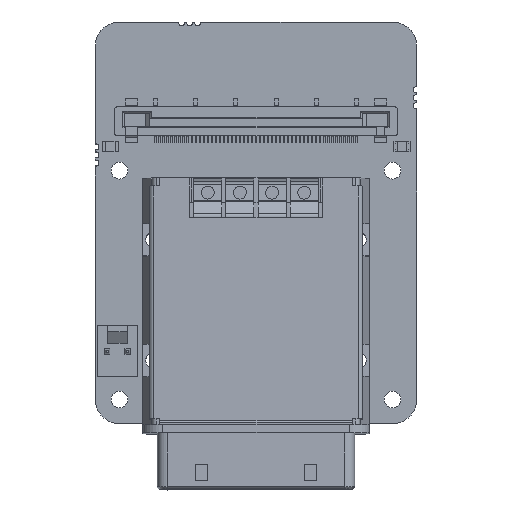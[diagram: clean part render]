
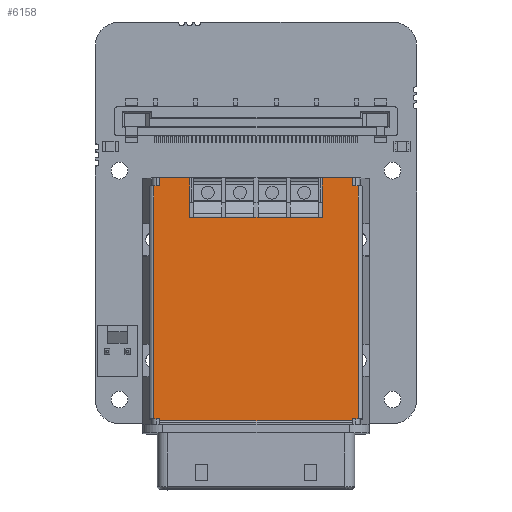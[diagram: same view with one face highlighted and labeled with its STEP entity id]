
A CAD part, top view. The second image highlights one B-rep face of the part: STEP entity #6158.
In plain terms, the highlighted planar face has unit normal (0, 0.018, 1).
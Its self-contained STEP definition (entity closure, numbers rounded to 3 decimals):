
#6158=ADVANCED_FACE('',(#10761),#8237,.T.);
#8237=PLANE('',#55753);
#10761=FACE_OUTER_BOUND('',#13601,.T.);
#13601=EDGE_LOOP('',(#25966,#25967,#25968,#25969,#25970,#25971,#25972,#25973,
#25974,#25975,#25976,#25977,#25978,#25979,#25980,#25981,#25982,#25983,#25984,
#25985,#25986,#25987,#25988,#25989));
#25966=ORIENTED_EDGE('',*,*,#39552,.F.);
#25967=ORIENTED_EDGE('',*,*,#39553,.F.);
#25968=ORIENTED_EDGE('',*,*,#39554,.F.);
#25969=ORIENTED_EDGE('',*,*,#39555,.F.);
#25970=ORIENTED_EDGE('',*,*,#39556,.F.);
#25971=ORIENTED_EDGE('',*,*,#39557,.F.);
#25972=ORIENTED_EDGE('',*,*,#39558,.T.);
#25973=ORIENTED_EDGE('',*,*,#39559,.T.);
#25974=ORIENTED_EDGE('',*,*,#39560,.T.);
#25975=ORIENTED_EDGE('',*,*,#39548,.F.);
#25976=ORIENTED_EDGE('',*,*,#39561,.F.);
#25977=ORIENTED_EDGE('',*,*,#39463,.T.);
#25978=ORIENTED_EDGE('',*,*,#39461,.T.);
#25979=ORIENTED_EDGE('',*,*,#39562,.T.);
#25980=ORIENTED_EDGE('',*,*,#39563,.F.);
#25981=ORIENTED_EDGE('',*,*,#39485,.T.);
#25982=ORIENTED_EDGE('',*,*,#39564,.T.);
#25983=ORIENTED_EDGE('',*,*,#39528,.F.);
#25984=ORIENTED_EDGE('',*,*,#39551,.T.);
#25985=ORIENTED_EDGE('',*,*,#39565,.T.);
#25986=ORIENTED_EDGE('',*,*,#39566,.T.);
#25987=ORIENTED_EDGE('',*,*,#39567,.F.);
#25988=ORIENTED_EDGE('',*,*,#39568,.F.);
#25989=ORIENTED_EDGE('',*,*,#39569,.F.);
#32702=VERTEX_POINT('',#82730);
#32703=VERTEX_POINT('',#82732);
#32704=VERTEX_POINT('',#82736);
#32725=VERTEX_POINT('',#82779);
#32726=VERTEX_POINT('',#82781);
#32756=VERTEX_POINT('',#82863);
#32757=VERTEX_POINT('',#82864);
#32774=VERTEX_POINT('',#82901);
#32775=VERTEX_POINT('',#82903);
#32776=VERTEX_POINT('',#82907);
#32777=VERTEX_POINT('',#82911);
#32778=VERTEX_POINT('',#82912);
#32779=VERTEX_POINT('',#82914);
#32780=VERTEX_POINT('',#82916);
#32781=VERTEX_POINT('',#82918);
#32782=VERTEX_POINT('',#82920);
#32783=VERTEX_POINT('',#82922);
#32784=VERTEX_POINT('',#82924);
#32785=VERTEX_POINT('',#82926);
#32786=VERTEX_POINT('',#82930);
#32787=VERTEX_POINT('',#82934);
#32788=VERTEX_POINT('',#82936);
#32789=VERTEX_POINT('',#82938);
#32790=VERTEX_POINT('',#82940);
#39461=EDGE_CURVE('',#32703,#32702,#45447,.T.);
#39463=EDGE_CURVE('',#32704,#32703,#45449,.T.);
#39485=EDGE_CURVE('',#32726,#32725,#45463,.T.);
#39528=EDGE_CURVE('',#32756,#32757,#45506,.T.);
#39548=EDGE_CURVE('',#32774,#32775,#45518,.T.);
#39551=EDGE_CURVE('',#32756,#32776,#45521,.T.);
#39552=EDGE_CURVE('',#32777,#32778,#45522,.T.);
#39553=EDGE_CURVE('',#32779,#32777,#45523,.T.);
#39554=EDGE_CURVE('',#32780,#32779,#45524,.T.);
#39555=EDGE_CURVE('',#32781,#32780,#45525,.T.);
#39556=EDGE_CURVE('',#32782,#32781,#45526,.T.);
#39557=EDGE_CURVE('',#32783,#32782,#45527,.T.);
#39558=EDGE_CURVE('',#32783,#32784,#45528,.T.);
#39559=EDGE_CURVE('',#32784,#32785,#45529,.T.);
#39560=EDGE_CURVE('',#32785,#32775,#45530,.T.);
#39561=EDGE_CURVE('',#32704,#32774,#45531,.T.);
#39562=EDGE_CURVE('',#32702,#32786,#45532,.T.);
#39563=EDGE_CURVE('',#32726,#32786,#45533,.T.);
#39564=EDGE_CURVE('',#32725,#32757,#45534,.T.);
#39565=EDGE_CURVE('',#32776,#32787,#45535,.T.);
#39566=EDGE_CURVE('',#32787,#32788,#45536,.T.);
#39567=EDGE_CURVE('',#32789,#32788,#45537,.T.);
#39568=EDGE_CURVE('',#32790,#32789,#45538,.T.);
#39569=EDGE_CURVE('',#32778,#32790,#45539,.T.);
#45447=LINE('',#82731,#51195);
#45449=LINE('',#82735,#51197);
#45463=LINE('',#82780,#51211);
#45506=LINE('',#82862,#51254);
#45518=LINE('',#82902,#51266);
#45521=LINE('',#82908,#51269);
#45522=LINE('',#82910,#51270);
#45523=LINE('',#82913,#51271);
#45524=LINE('',#82915,#51272);
#45525=LINE('',#82917,#51273);
#45526=LINE('',#82919,#51274);
#45527=LINE('',#82921,#51275);
#45528=LINE('',#82923,#51276);
#45529=LINE('',#82925,#51277);
#45530=LINE('',#82927,#51278);
#45531=LINE('',#82928,#51279);
#45532=LINE('',#82929,#51280);
#45533=LINE('',#82931,#51281);
#45534=LINE('',#82932,#51282);
#45535=LINE('',#82933,#51283);
#45536=LINE('',#82935,#51284);
#45537=LINE('',#82937,#51285);
#45538=LINE('',#82939,#51286);
#45539=LINE('',#82941,#51287);
#51195=VECTOR('',#67779,1.);
#51197=VECTOR('',#67783,1.);
#51211=VECTOR('',#67815,1.);
#51254=VECTOR('',#67876,1.);
#51266=VECTOR('',#67906,1.);
#51269=VECTOR('',#67911,1.);
#51270=VECTOR('',#67914,1.);
#51271=VECTOR('',#67915,1.);
#51272=VECTOR('',#67916,1.);
#51273=VECTOR('',#67917,1.);
#51274=VECTOR('',#67918,1.);
#51275=VECTOR('',#67919,1.);
#51276=VECTOR('',#67920,1.);
#51277=VECTOR('',#67921,1.);
#51278=VECTOR('',#67922,1.);
#51279=VECTOR('',#67923,1.);
#51280=VECTOR('',#67924,1.);
#51281=VECTOR('',#67925,1.);
#51282=VECTOR('',#67926,1.);
#51283=VECTOR('',#67927,1.);
#51284=VECTOR('',#67928,1.);
#51285=VECTOR('',#67929,1.);
#51286=VECTOR('',#67930,1.);
#51287=VECTOR('',#67931,1.);
#55753=AXIS2_PLACEMENT_3D('',#82942,#67932,#67933);
#67779=DIRECTION('',(0.,-1.,0.017));
#67783=DIRECTION('',(1.,0.,0.));
#67815=DIRECTION('',(1.,0.,0.));
#67876=DIRECTION('',(1.,0.,0.));
#67906=DIRECTION('',(1.,0.,0.));
#67911=DIRECTION('',(0.,1.,-0.017));
#67914=DIRECTION('',(1.,0.,0.));
#67915=DIRECTION('',(1.,0.,0.));
#67916=DIRECTION('',(1.,0.,0.));
#67917=DIRECTION('',(1.,0.,0.));
#67918=DIRECTION('',(1.,0.,0.));
#67919=DIRECTION('',(1.,0.,0.));
#67920=DIRECTION('',(0.,1.,-0.017));
#67921=DIRECTION('',(-1.,0.,0.));
#67922=DIRECTION('',(0.,-1.,0.017));
#67923=DIRECTION('',(0.,1.,-0.017));
#67924=DIRECTION('',(1.,0.,0.));
#67925=DIRECTION('',(0.,-1.,0.017));
#67926=DIRECTION('',(0.,1.,-0.017));
#67927=DIRECTION('',(-1.,0.,0.));
#67928=DIRECTION('',(0.,-1.,0.017));
#67929=DIRECTION('',(1.,0.,0.));
#67930=DIRECTION('',(1.,0.,0.));
#67931=DIRECTION('',(1.,0.,0.));
#67932=DIRECTION('',(0.,0.017,1.));
#67933=DIRECTION('',(0.,1.,-0.017));
#82730=CARTESIAN_POINT('',(8.,0.361,7.651));
#82731=CARTESIAN_POINT('',(8.,0.601,7.647));
#82732=CARTESIAN_POINT('',(8.,0.601,7.647));
#82735=CARTESIAN_POINT('',(7.255,0.601,7.647));
#82736=CARTESIAN_POINT('',(7.255,0.601,7.647));
#82779=CARTESIAN_POINT('',(32.745,0.601,7.647));
#82780=CARTESIAN_POINT('',(32.,0.601,7.647));
#82781=CARTESIAN_POINT('',(32.,0.601,7.647));
#82862=CARTESIAN_POINT('',(32.,29.576,7.141));
#82863=CARTESIAN_POINT('',(32.,29.576,7.141));
#82864=CARTESIAN_POINT('',(32.745,29.576,7.141));
#82901=CARTESIAN_POINT('',(7.255,29.576,7.141));
#82902=CARTESIAN_POINT('',(7.255,29.576,7.141));
#82903=CARTESIAN_POINT('',(8.,29.576,7.141));
#82907=CARTESIAN_POINT('',(32.,30.576,7.124));
#82908=CARTESIAN_POINT('',(32.,29.576,7.141));
#82910=CARTESIAN_POINT('',(20.255,25.677,7.209));
#82911=CARTESIAN_POINT('',(20.255,25.677,7.209));
#82912=CARTESIAN_POINT('',(23.745,25.677,7.209));
#82913=CARTESIAN_POINT('',(19.745,25.677,7.209));
#82914=CARTESIAN_POINT('',(19.745,25.677,7.209));
#82915=CARTESIAN_POINT('',(16.255,25.677,7.209));
#82916=CARTESIAN_POINT('',(16.255,25.677,7.209));
#82917=CARTESIAN_POINT('',(15.745,25.677,7.209));
#82918=CARTESIAN_POINT('',(15.745,25.677,7.209));
#82919=CARTESIAN_POINT('',(12.255,25.677,7.209));
#82920=CARTESIAN_POINT('',(12.255,25.677,7.209));
#82921=CARTESIAN_POINT('',(11.75,25.677,7.209));
#82922=CARTESIAN_POINT('',(11.75,25.677,7.209));
#82923=CARTESIAN_POINT('',(11.75,25.677,7.209));
#82924=CARTESIAN_POINT('',(11.75,30.576,7.124));
#82925=CARTESIAN_POINT('',(11.75,30.576,7.124));
#82926=CARTESIAN_POINT('',(8.,30.576,7.124));
#82927=CARTESIAN_POINT('',(8.,30.576,7.124));
#82928=CARTESIAN_POINT('',(7.255,0.601,7.647));
#82929=CARTESIAN_POINT('',(8.,0.361,7.651));
#82930=CARTESIAN_POINT('',(32.,0.361,7.651));
#82931=CARTESIAN_POINT('',(32.,0.601,7.647));
#82932=CARTESIAN_POINT('',(32.745,0.601,7.647));
#82933=CARTESIAN_POINT('',(32.,30.576,7.124));
#82934=CARTESIAN_POINT('',(28.25,30.576,7.124));
#82935=CARTESIAN_POINT('',(28.25,30.576,7.124));
#82936=CARTESIAN_POINT('',(28.25,25.677,7.209));
#82937=CARTESIAN_POINT('',(27.745,25.677,7.209));
#82938=CARTESIAN_POINT('',(27.745,25.677,7.209));
#82939=CARTESIAN_POINT('',(24.255,25.677,7.209));
#82940=CARTESIAN_POINT('',(24.255,25.677,7.209));
#82941=CARTESIAN_POINT('',(23.745,25.677,7.209));
#82942=CARTESIAN_POINT('',(8.,0.601,7.647));
